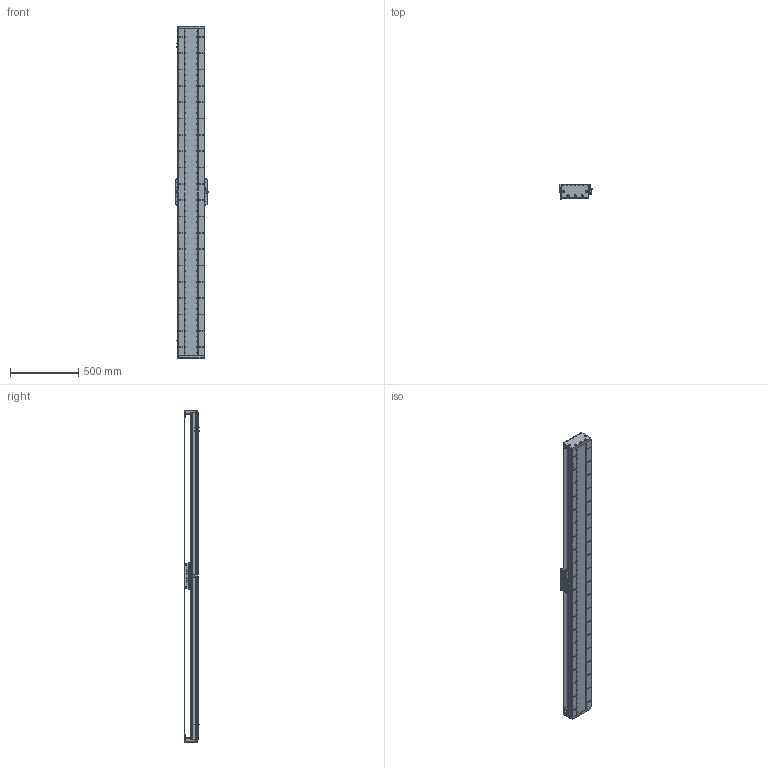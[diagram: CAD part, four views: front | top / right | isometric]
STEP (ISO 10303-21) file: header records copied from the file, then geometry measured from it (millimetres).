
FILE_DESCRIPTION (( 'STEP AP203' ), '1' );
FILE_NAME ('DA-C195-C2-T2160-C010-0.2 眻盄萇儂.STEP', '2025-08-15T01:11:00', ( '' ), ( '' ), 'SwSTEP 2.0', 'SolidWorks 2019', '' );
FILE_SCHEMA (( 'CONFIG_CONTROL_DESIGN' ));
Length unit declared in the file: millimetre
Products named in the file (15): CU195-C2賑輸-俋楷; LMT黍杅芛; DA195詩湍郪璃; IU-CU195-L-00 菁釱(L2400); DA195詩湍裔啣; 葩璃 DA95-GT-T-00; DA-C195-C2-T2160-C010-0.2 眻盄萇儂; DA95-HXJ-00 遣喳砎蝶; DA165-GYP-00 光电感应片(默认); DA-C195-GD-DB-H-00 傷啣; MS200 棠掑喜S315-T1740; DA195詩湍嶺輸; IU-CU195-L 菁釱絳寢; DA195詩湍菜輸; PM-T45ㄗ侂狟ㄘ
Assembly tree (29 placements, depth 3):
  DA-C195-C2-T2160-C010-0.2 眻盄萇儂
    DA195詩湍郪璃
      DA195詩湍菜輸  x2
      DA195詩湍裔啣
      DA195詩湍嶺輸  x2
      DA95-HXJ-00 遣喳砎蝶  x8
      DA-C195-GD-DB-H-00 傷啣  x2
    IU-CU195-L 菁釱絳寢
      IU-CU195-L-00 菁釱(L2400)
      葩璃 DA95-GT-T-00  x4
    LMT黍杅芛
    MS200 棠掑喜S315-T1740
    PM-T45ㄗ侂狟ㄘ  x3
    DA165-GYP-00 光电感应片(默认)
    CU195-C2賑輸-俋楷
Bounding box: 248 x 115.45 x 2440 mm (x, y, z)
Volume: 14145020 mm3; surface area: 4170932.6 mm2
Topology: 66 solids, 130 shells, 4302 faces, 11923 edges, 7495 vertices
Faces by surface type: cylinder 2287, plane 1397, cone 530, torus 52, sphere 36
Entity records: 136041 total; most frequent: CARTESIAN_POINT 36314, ORIENTED_EDGE 20730, DIRECTION 20152, EDGE_CURVE 10365, AXIS2_PLACEMENT_3D 7569, VERTEX_POINT 6697, VECTOR 5014, LINE 5014
